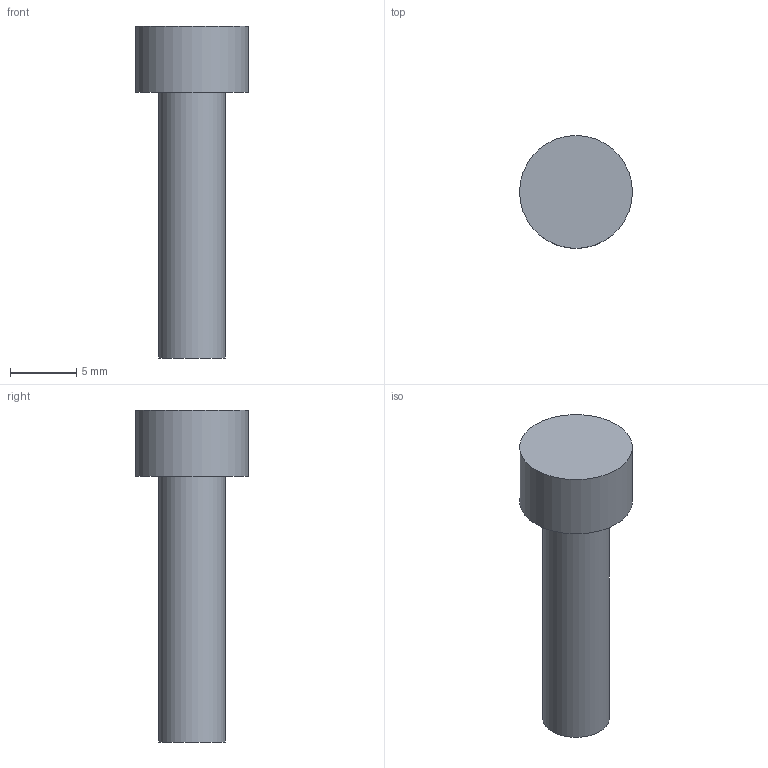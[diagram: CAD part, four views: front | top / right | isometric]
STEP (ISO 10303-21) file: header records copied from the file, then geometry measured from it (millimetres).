
FILE_DESCRIPTION(('Open CASCADE Model'),'2;1');
FILE_NAME('Open CASCADE Shape Model','2026-09-10T23:36:51',('Author'),( 'Open CASCADE'),'Open CASCADE STEP processor 7.9','Open CASCADE 7.9' ,'Unknown');
FILE_SCHEMA(('AUTOMOTIVE_DESIGN { 1 0 10303 214 1 1 1 1 }'));
Length unit declared in the file: millimetre
Products named in the file (1): Open CASCADE STEP translator 7.9 27
Bounding box: 8.5 x 8.5 x 25 mm (x, y, z)
Volume: 676.4 mm3; surface area: 561.2 mm2
Topology: 1 solids, 1 shells, 5 faces, 6 edges, 4 vertices
Faces by surface type: plane 3, cylinder 2
Full cylindrical faces by diameter (mm): 5 x1, 8.5 x1
Entity records: 192 total; most frequent: DIRECTION 34, CARTESIAN_POINT 28, ORIENTED_EDGE 12, PCURVE 12, DEFINITIONAL_REPRESENTATION 12, AXIS2_PLACEMENT_3D 10, LINE 10, VECTOR 10
